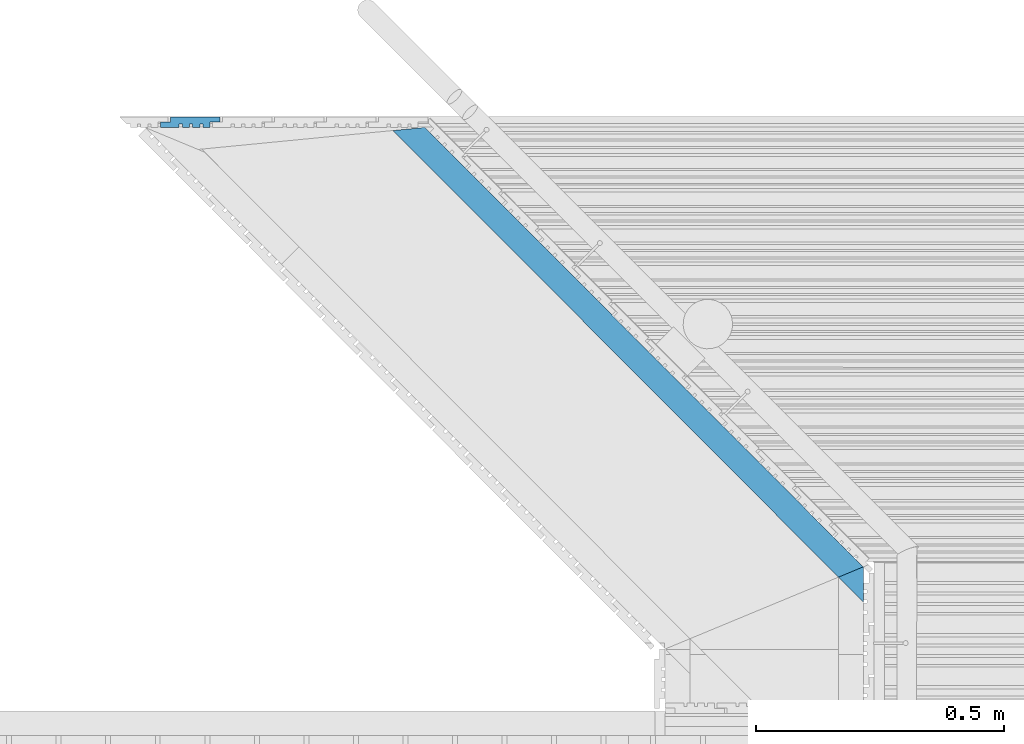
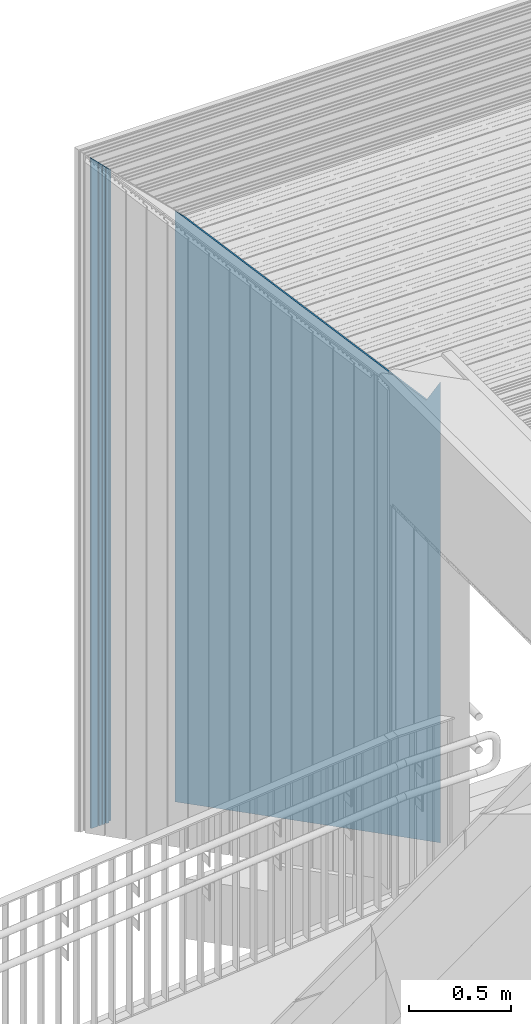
# One storey, part 140 of 418: 2 building element parts, 2 elements without a shape of their own.
"""IFC2X3 building model written with IfcOpenShell, lengths in millimetres."""

from ifc_helpers import new_model, entity, si_unit, converted_unit, derived_unit, money_unit, direction, frame, origin_with_axes, place, context, subcontext, project, spatial, polyline, outline, extrude, boolean, faceted_brep, material, type_object, element, aggregate, save


model = new_model("IFC2X3")

# Units and contexts
model_context = context("Model", 3, precision=0.01, world=origin_with_axes(), true_north=direction((0.0, 1.0)))
body_context = subcontext(model_context, "Body", "Model", "MODEL_VIEW")
ifc_project = project(units=[si_unit("LENGTHUNIT", "METRE", prefix="MILLI"), si_unit("AREAUNIT", "SQUARE_METRE"), si_unit("VOLUMEUNIT", "CUBIC_METRE"), converted_unit("PLANEANGLEUNIT", "DEGREE", entity("IfcPlaneAngleMeasure", 0.0174532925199), si_unit("PLANEANGLEUNIT", "RADIAN"), dimensions=[0, 0, 0, 0, 0, 0, 0]), si_unit("SOLIDANGLEUNIT", "STERADIAN"), money_unit("EUR"), converted_unit("TIMEUNIT", "Year", entity("IfcTimeMeasure", 31556926.0), si_unit("TIMEUNIT", "SECOND"), dimensions=[0, 0, 1, 0, 0, 0, 0]), si_unit("MASSUNIT", "GRAM", prefix="KILO"), si_unit("THERMODYNAMICTEMPERATUREUNIT", "DEGREE_CELSIUS"), si_unit("LUMINOUSINTENSITYUNIT", "LUMEN"), si_unit("ENERGYUNIT", "JOULE", prefix="MEGA"), derived_unit("THERMALCONDUCTANCEUNIT", [(si_unit("POWERUNIT", "WATT"), 1), (si_unit("LENGTHUNIT", "METRE"), -1), (si_unit("THERMODYNAMICTEMPERATUREUNIT", "KELVIN"), -1)]), derived_unit("SPECIFICHEATCAPACITYUNIT", [(si_unit("ENERGYUNIT", "JOULE"), 1), (si_unit("MASSUNIT", "GRAM", prefix="KILO"), -1), (si_unit("THERMODYNAMICTEMPERATUREUNIT", "KELVIN"), -1)]), derived_unit("MASSDENSITYUNIT", [(si_unit("MASSUNIT", "GRAM", prefix="KILO"), 1), (si_unit("VOLUMEUNIT", "CUBIC_METRE"), -1)])], contexts=[model_context])

# Site, building, storey
site_placement = place(None, origin_with_axes())
site = spatial("IfcSite", under=ifc_project, at=site_placement, Name="Paldiski mnt 245/1, Tallinn, Harjumaa", CompositionType="COMPLEX")
building_placement = place(site_placement, origin_with_axes())
building = spatial("IfcBuilding", under=site, at=building_placement, Name="RKAS Hoone üldnimetus (kasutust iseloomustav) -> IFC Project Manager -> SOLIBRI", CompositionType="ELEMENT")
storey_placement = place(building_placement, origin_with_axes())
storey = spatial("IfcBuildingStorey", under=building, at=storey_placement, Name="Esimene korrus", CompositionType="ELEMENT", Elevation=0.0)

# Proxy, building element part
building_element_proxy_type_1 = type_object("IfcBuildingElementProxyType", Name="Varikatuse_sein 400", PredefinedType="NOTDEFINED")
proxy_1_placement = place(storey_placement, frame((-53883.9743783, 39767.252735, 0.0), z_axis=(0.0, 0.0, 1.0), x_axis=(0.706191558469, -0.708020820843, 0.0)))
proxy_1 = element("IfcBuildingElementProxy", 1, at=proxy_1_placement, inside=storey, type_object=building_element_proxy_type_1, Name="Varikatus")
ifc_material_1 = material(Name="SKR-01_Õhkvahe - Raam")
building_element_part_1_placement = place(proxy_1_placement, origin_with_axes())
building_element_part_1 = element("IfcBuildingElementPart", 2, at=building_element_part_1_placement, material=ifc_material_1, Name="SKR-01_Õhkvahe - Raam", context=body_context, shape_type="CSG", body=[
    boolean("DIFFERENCE", boolean("DIFFERENCE", boolean("DIFFERENCE", boolean("DIFFERENCE", boolean("DIFFERENCE", boolean("DIFFERENCE", extrude(outline(polyline([(-398.966548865, -50.0), (1654.52755892, -50.0), (1654.52755892, 0.0), (-398.966548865, 0.0), (-398.966548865, -50.0)])), origin_with_axes(), (0.0, 0.0, 1.0), 4090.0), faceted_brep([(-287.303761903, -350.0, 3918.38339031), (-287.303761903, -350.0, 0.0), (-398.966548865, -350.0, 0.0), (-398.966548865, -350.0, 4090.0), (1654.52755892, -350.0, 4090.0), (1654.52755892, -350.0, 0.0), (1108.78180968, -349.999999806, 0.0), (1108.78180915, -349.999999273, 2930.77802674), (1108.64311927, -350.0, 2930.54096341), (-328.347156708, -400.0, 3982.8532107), (-328.347156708, -400.0, 0.0), (-398.966548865, -400.0, 0.0), (-398.966548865, -400.0, 4090.0), (1654.52755892, -400.0, 4090.0), (1654.52755892, -400.0, 0.0), (1158.9113259, -400.0, 0.0), (1158.9113259, -400.0, 2982.00000037), (1123.80377089, -364.983149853, 2982.00000037), (1088.87739132, -400.0, 2982.00000037), (1088.03072295, -400.0, 2980.55277872), (1085.98561484, -400.0, 2982.00000037), (1078.53869489, -392.562102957, 2982.00000037), (1071.1200146, -400.0, 2992.51964895), (1071.1200146, -400.0, 2982.00000037)], [[[0, 1, 2, 3, 4, 5, 6, 7, 8]], [[1, 0, 9, 10]], [[1, 10, 11, 2]], [[3, 2, 11, 12]], [[3, 12, 13, 4]], [[13, 14, 5, 4]], [[15, 6, 5, 14]], [[7, 6, 15, 16, 17]], [[8, 7, 17, 18, 19]], [[0, 8, 19, 20, 21, 22, 9]], [[16, 15, 14, 13, 12, 11, 10, 9, 22, 23, 20, 19, 18]], [[16, 18, 17]], [[20, 23, 21]], [[23, 22, 21]]])), faceted_brep([(1295.46685324, -346.063713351, 0.0), (1299.41333728, -350.000000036, 0.0), (1291.5407371, -349.999999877, 0.0), (1295.46685324, -346.063713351, 2280.0), (1299.41333721, -349.999999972, 2280.0), (1291.540737, -349.999999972, 2280.0)], [[[0, 1, 2]], [[1, 0, 3, 4]], [[5, 2, 1, 4]], [[0, 2, 5, 3]], [[5, 4, 3]]])), faceted_brep([(1309.7438273, -331.749758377, 0.0), (1317.53205682, -339.517864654, 0.0), (1331.65588833, -325.357449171, 0.0), (1338.73609607, -332.419364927, 0.0), (1321.20088299, -349.999999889, 0.0), (1301.427452, -349.999999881, 0.0), (1304.406392, -347.01334279, 0.0), (1299.45024677, -342.07000206, 0.0), (1309.7438273, -331.749758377, 2280.0), (1317.53205682, -339.517864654, 2280.0), (1331.65588833, -325.357449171, 2280.0), (1338.73609607, -332.419364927, 2280.0), (1321.2008829, -349.999999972, 2280.0), (1301.42745191, -349.999999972, 2280.0), (1304.406392, -347.01334279, 2280.0), (1299.45024677, -342.07000206, 2280.0)], [[[0, 1, 2, 3, 4, 5, 6, 7]], [[1, 0, 8, 9]], [[2, 1, 9, 10]], [[3, 2, 10, 11]], [[4, 3, 11, 12]], [[13, 5, 4, 12]], [[6, 5, 13, 14]], [[7, 6, 14, 15]], [[0, 7, 15, 8]], [[13, 12, 11, 10, 9, 8, 15, 14]]])), faceted_brep([(1383.89394094, -257.407572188, 0.0), (1391.68217046, -265.175678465, 0.0), (1405.80600197, -251.015262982, 0.0), (1412.88620971, -258.077178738, 0.0), (1342.2670542, -328.879260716, 0.0), (1334.83283462, -321.464248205, 0.0), (1320.70900327, -335.624665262, 0.0), (1313.27478542, -328.209654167, 0.0), (1339.77539592, -301.640397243, 0.0), (1344.73154273, -306.583737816, 0.0), (1349.22468465, -302.078957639, 0.0), (1344.26853942, -297.135616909, 0.0), (1354.81841795, -286.558410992, 0.0), (1359.77456318, -291.501751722, 0.0), (1364.10135663, -287.163749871, 0.0), (1359.1452114, -282.220409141, 0.0), (1369.61696688, -271.721527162, 0.0), (1374.57311368, -276.664867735, 0.0), (1378.55650564, -272.671156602, 0.0), (1373.60036041, -267.727815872, 0.0), (1383.89394094, -257.407572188, 2280.0), (1391.68217046, -265.175678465, 2280.0), (1405.80600197, -251.015262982, 2280.0), (1412.88620971, -258.077178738, 2280.0), (1342.2670542, -328.879260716, 2280.0), (1334.83283462, -321.464248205, 2280.0), (1320.70900327, -335.624665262, 2280.0), (1313.27478542, -328.209654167, 2280.0), (1339.77539592, -301.640397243, 2280.0), (1344.73154273, -306.583737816, 2280.0), (1349.22468465, -302.078957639, 2280.0), (1344.26853942, -297.135616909, 2280.0), (1354.81841795, -286.558410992, 2280.0), (1359.77456318, -291.501751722, 2280.0), (1364.10135663, -287.163749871, 2280.0), (1359.1452114, -282.220409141, 2280.0), (1369.61696688, -271.721527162, 2280.0), (1374.57311368, -276.664867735, 2280.0), (1378.55650564, -272.671156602, 2280.0), (1373.60036041, -267.727815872, 2280.0)], [[[0, 1, 2, 3, 4, 5, 6, 7, 8, 9, 10, 11, 12, 13, 14, 15, 16, 17, 18, 19]], [[1, 0, 20, 21]], [[2, 1, 21, 22]], [[3, 2, 22, 23]], [[4, 3, 23, 24]], [[5, 4, 24, 25]], [[6, 5, 25, 26]], [[7, 6, 26, 27]], [[8, 7, 27, 28]], [[9, 8, 28, 29]], [[10, 9, 29, 30]], [[11, 10, 30, 31]], [[12, 11, 31, 32]], [[13, 12, 32, 33]], [[14, 13, 33, 34]], [[15, 14, 34, 35]], [[16, 15, 35, 36]], [[17, 16, 36, 37]], [[18, 17, 37, 38]], [[19, 18, 38, 39]], [[0, 19, 39, 20]], [[21, 20, 39, 38, 37, 36, 35, 34, 33, 32, 31, 30, 29, 28, 27, 26, 25, 24, 23, 22]]])), faceted_brep([(-41.0433930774, -50.0, 3531.56446793), (-41.0433930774, -50.0, 0.0), (-398.966548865, -50.0, 0.0), (-398.966548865, -50.0, 4090.0), (1654.52755892, -50.0, 4090.0), (1654.52755892, -50.0, 0.0), (1232.81862778, -49.9999999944, 0.0), (1232.81862769, -49.9999999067, 2631.32666049), (1232.31749721, -50.0, 2630.47007154), (-287.303761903, -350.0, 3918.38339031), (-287.30376199, -350.000000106, 0.0), (-398.966548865, -350.0, 0.0), (-398.966548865, -350.0, 4090.0), (1654.52755892, -350.0, 4090.0), (1654.52755892, -350.0, 0.0), (1412.25513599, -228.972911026, 0.0), (1533.59572387, -349.999999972, 0.0), (1427.12357458, -243.802935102, 0.0), (1416.41716813, -254.537074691, 0.0), (1408.98294881, -247.12206187, 0.0), (1394.85911702, -261.282479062, 0.0), (1387.42489911, -253.867468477, 0.0), (1412.25513599, -228.972911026, 2280.0), (1427.12357458, -243.802935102, 2280.0), (1533.5957239, -350.0, 2982.00000037), (1335.66123843, -152.5769036, 2982.00000037), (1138.74821044, -349.999999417, 2982.00000037), (1108.78180915, -349.999999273, 2930.77802674), (1108.64311927, -350.0, 2930.54096341), (1416.41716813, -254.537074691, 2280.0), (1408.98294881, -247.12206187, 2280.0), (1394.85911702, -261.282479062, 2280.0), (1387.42489911, -253.867468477, 2280.0)], [[[0, 1, 2, 3, 4, 5, 6, 7, 8]], [[1, 0, 9, 10]], [[1, 10, 11, 2]], [[3, 2, 11, 12]], [[3, 12, 13, 4]], [[13, 14, 5, 4]], [[15, 6, 5, 14, 16, 17, 18, 19, 20, 21]], [[7, 6, 15, 22, 23, 17, 16, 24, 25]], [[8, 7, 25, 26, 27, 28]], [[0, 8, 28, 9]], [[24, 16, 14, 13, 12, 11, 10, 9, 28, 27, 26]], [[18, 17, 23, 29]], [[19, 18, 29, 30]], [[20, 19, 30, 31]], [[21, 20, 31, 32]], [[15, 21, 32, 22]], [[23, 22, 32, 31, 30, 29]], [[24, 26, 25]]])), faceted_brep([(9.75649072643e-06, 9.78177183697e-06, 3467.09463492), (9.75649072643e-06, 9.78177183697e-06, 0.0), (-398.966548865, 0.0, 0.0), (-398.966548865, 0.0, 4090.0), (1654.52755892, 0.0, 4090.0), (1654.52755892, 0.0, 0.0), (1253.49141913, 0.0, 0.0), (1253.49142302, -3.8734455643e-06, 2581.41809275), (1252.92989353, 0.0, 2580.45825622), (-41.0433930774, -50.0, 3531.56446793), (-41.0433936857, -50.000000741, 0.0), (-398.966548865, -50.0, 0.0), (-398.966548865, -50.0, 4090.0), (1654.52755892, -50.0, 4090.0), (1654.52755892, -50.0, 0.0), (1303.62093515, -50.0, 0.0), (1303.62093515, -50.0, 2752.34999852), (1232.81862769, -49.9999999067, 2631.32666049), (1232.31749721, -50.0, 2630.47007154)], [[[0, 1, 2, 3, 4, 5, 6, 7, 8]], [[1, 0, 9, 10]], [[1, 10, 11, 2]], [[3, 2, 11, 12]], [[3, 12, 13, 4]], [[13, 14, 5, 4]], [[15, 6, 5, 14]], [[7, 6, 15, 16]], [[8, 7, 16, 17, 18]], [[0, 8, 18, 9]], [[16, 15, 14, 13, 12, 11, 10, 9, 18, 17]]])),
])
aggregate(proxy_1, [building_element_part_1])

building_element_proxy_type_2 = type_object("IfcBuildingElementProxyType", Name="Laudis esiprofiil_01 21 x 622", PredefinedType="NOTDEFINED")
proxy_2_placement = place(storey_placement, frame((-54498.5561962, 39788.252735, 0.0), z_axis=(0.0, 0.0, 1.0), x_axis=(0.0, 1.0, 0.0)))
proxy_2 = element("IfcBuildingElementProxy", 3, at=proxy_2_placement, inside=storey, type_object=building_element_proxy_type_2, Name="Varikatus")
ifc_material_2 = material(Name="Laudis 5072 Honka 45 horisontaalne raastas")
building_element_part_2_placement = place(proxy_2_placement, origin_with_axes())
building_element_part_2 = element("IfcBuildingElementPart", 4, at=building_element_part_2_placement, material=ifc_material_2, Name="Laudis 5072 Honka 45 horisontaalne raastas", context=body_context, shape_type="CSG", body=[
    boolean("DIFFERENCE", boolean("DIFFERENCE", boolean("DIFFERENCE", boolean("DIFFERENCE", boolean("DIFFERENCE", boolean("DIFFERENCE", extrude(outline(polyline([(3.20348192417e-08, -100.971430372), (-10.5000010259, -100.971430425), (-10.5000005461, -80.9714298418), (-20.9999998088, -80.9714301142), (-21.0000010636, -118.497524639), (-14.0000005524, -118.497525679), (-14.0000003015, -124.860022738), (-20.99999981, -124.860022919), (-20.9999998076, -139.79914009), (-14.0000002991, -139.799139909), (-14.0000007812, -145.926080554), (-21.0000002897, -145.926080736), (-21.0000013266, -160.754573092), (-14.0000008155, -160.754574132), (-14.0000015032, -166.395242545), (-21.0000010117, -166.395242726), (-21.0000007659, -180.971429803), (-10.000001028, -180.971430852), (-10.0000002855, -200.971430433), (-7.63172636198e-07, -200.971430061), (3.20348192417e-08, -100.971430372)])), origin_with_axes(), (0.0, 0.0, 1.0), 4086.15997799), faceted_brep([(-10.0000002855, -515.971430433, 3569.02857075), (-7.63172636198e-07, -515.971430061, 3569.02857112), (-7.63172636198e-07, -515.971430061, 4086.15997799), (-10.0000002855, -515.971430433, 4086.15997799), (3.20312665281e-08, -415.971430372, 3669.02857081), (-10.000001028, -495.971430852, 3589.02857033), (-21.0000007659, -495.971429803, 3589.02857138), (-21.0000010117, -481.395242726, 3603.60475846), (-14.0000015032, -481.395242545, 3603.60475864), (-14.0000008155, -475.754574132, 3609.24542705), (-21.0000013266, -475.754573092, 3609.24542809), (-21.0000002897, -460.926080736, 3624.07392045), (-14.0000007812, -460.926080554, 3624.07392063), (-14.0000002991, -454.799139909, 3630.20086128), (-20.9999998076, -454.79914009, 3630.20086109), (-20.99999981, -439.860022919, 3645.13997827), (-14.0000003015, -439.860022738, 3645.13997845), (-14.0000005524, -433.497525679, 3651.50247551), (-21.0000010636, -433.497524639, 3651.50247655), (-20.9999998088, -395.971430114, 3689.02857107), (-10.5000005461, -395.971429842, 3689.02857134), (-10.5000010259, -415.971430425, 3669.02857076), (3.20312665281e-08, -415.971430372, 4086.15997799), (-10.5000010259, -415.971430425, 4086.15997799), (-10.5000005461, -395.971429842, 4086.15997799), (-20.9999998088, -395.971430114, 4086.15997799), (-21.0000010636, -433.497524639, 4086.15997799), (-14.0000005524, -433.497525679, 4086.15997799), (-14.0000003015, -439.860022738, 4086.15997799), (-20.99999981, -439.860022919, 4086.15997799), (-20.9999998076, -454.79914009, 4086.15997799), (-14.0000002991, -454.799139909, 4086.15997799), (-14.0000007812, -460.926080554, 4086.15997799), (-21.0000002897, -460.926080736, 4086.15997799), (-21.0000013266, -475.754573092, 4086.15997799), (-14.0000008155, -475.754574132, 4086.15997799), (-14.0000015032, -481.395242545, 4086.15997799), (-21.0000010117, -481.395242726, 4086.15997799), (-21.0000007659, -495.971429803, 4086.15997799), (-10.000001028, -495.971430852, 4086.15997799)], [[[0, 1, 2, 3]], [[4, 1, 0, 5, 6, 7, 8, 9, 10, 11, 12, 13, 14, 15, 16, 17, 18, 19, 20, 21]], [[1, 4, 22, 2]], [[2, 22, 23, 24, 25, 26, 27, 28, 29, 30, 31, 32, 33, 34, 35, 36, 37, 38, 39, 3]], [[5, 0, 3, 39]], [[6, 5, 39, 38]], [[7, 6, 38, 37]], [[8, 7, 37, 36]], [[9, 8, 36, 35]], [[10, 9, 35, 34]], [[11, 10, 34, 33]], [[12, 11, 33, 32]], [[13, 12, 32, 31]], [[14, 13, 31, 30]], [[15, 14, 30, 29]], [[16, 15, 29, 28]], [[17, 16, 28, 27]], [[18, 17, 27, 26]], [[19, 18, 26, 25]], [[20, 19, 25, 24]], [[21, 20, 24, 23]], [[4, 21, 23, 22]]])), faceted_brep([(-10.0000002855, -620.971430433, 3464.02857075), (-7.63172636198e-07, -620.971430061, 3464.02857112), (-7.63172636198e-07, -620.971430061, 4086.15997799), (-10.0000002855, -620.971430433, 4086.15997799), (3.20312665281e-08, -520.971430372, 3564.02857081), (-10.000001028, -600.971430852, 3484.02857033), (-21.0000007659, -600.971429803, 3484.02857138), (-21.0000010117, -586.395242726, 3498.60475846), (-14.0000015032, -586.395242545, 3498.60475864), (-14.0000008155, -580.754574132, 3504.24542705), (-21.0000013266, -580.754573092, 3504.24542809), (-21.0000002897, -565.926080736, 3519.07392045), (-14.0000007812, -565.926080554, 3519.07392063), (-14.0000002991, -559.799139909, 3525.20086128), (-20.9999998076, -559.79914009, 3525.20086109), (-20.99999981, -544.860022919, 3540.13997827), (-14.0000003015, -544.860022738, 3540.13997845), (-14.0000005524, -538.497525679, 3546.50247551), (-21.0000010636, -538.497524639, 3546.50247655), (-20.9999998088, -500.971430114, 3584.02857107), (-10.5000005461, -500.971429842, 3584.02857134), (-10.5000010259, -520.971430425, 3564.02857076), (3.20312665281e-08, -520.971430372, 4086.15997799), (-10.5000010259, -520.971430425, 4086.15997799), (-10.5000005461, -500.971429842, 4086.15997799), (-20.9999998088, -500.971430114, 4086.15997799), (-21.0000010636, -538.497524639, 4086.15997799), (-14.0000005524, -538.497525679, 4086.15997799), (-14.0000003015, -544.860022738, 4086.15997799), (-20.99999981, -544.860022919, 4086.15997799), (-20.9999998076, -559.79914009, 4086.15997799), (-14.0000002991, -559.799139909, 4086.15997799), (-14.0000007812, -565.926080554, 4086.15997799), (-21.0000002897, -565.926080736, 4086.15997799), (-21.0000013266, -580.754573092, 4086.15997799), (-14.0000008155, -580.754574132, 4086.15997799), (-14.0000015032, -586.395242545, 4086.15997799), (-21.0000010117, -586.395242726, 4086.15997799), (-21.0000007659, -600.971429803, 4086.15997799), (-10.000001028, -600.971430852, 4086.15997799)], [[[0, 1, 2, 3]], [[4, 1, 0, 5, 6, 7, 8, 9, 10, 11, 12, 13, 14, 15, 16, 17, 18, 19, 20, 21]], [[1, 4, 22, 2]], [[2, 22, 23, 24, 25, 26, 27, 28, 29, 30, 31, 32, 33, 34, 35, 36, 37, 38, 39, 3]], [[5, 0, 3, 39]], [[6, 5, 39, 38]], [[7, 6, 38, 37]], [[8, 7, 37, 36]], [[9, 8, 36, 35]], [[10, 9, 35, 34]], [[11, 10, 34, 33]], [[12, 11, 33, 32]], [[13, 12, 32, 31]], [[14, 13, 31, 30]], [[15, 14, 30, 29]], [[16, 15, 29, 28]], [[17, 16, 28, 27]], [[18, 17, 27, 26]], [[19, 18, 26, 25]], [[20, 19, 25, 24]], [[21, 20, 24, 23]], [[4, 21, 23, 22]]])), faceted_brep([(-10.0000002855, -305.971430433, 3779.02857075), (-7.63179741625e-07, -305.971430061, 3779.02857112), (-7.63179741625e-07, -305.971430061, 4086.15997799), (-10.0000002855, -305.971430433, 4086.15997799), (3.20312665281e-08, -205.971430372, 3879.02857081), (-10.000001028, -285.971430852, 3799.02857033), (-21.0000007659, -285.971429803, 3799.02857138), (-21.0000010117, -271.395242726, 3813.60475846), (-14.0000015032, -271.395242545, 3813.60475864), (-14.0000008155, -265.754574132, 3819.24542705), (-21.0000013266, -265.754573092, 3819.24542809), (-21.0000002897, -250.926080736, 3834.07392045), (-14.0000007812, -250.926080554, 3834.07392063), (-14.0000002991, -244.799139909, 3840.20086128), (-20.9999998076, -244.79914009, 3840.20086109), (-20.99999981, -229.860022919, 3855.13997827), (-14.0000003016, -229.860022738, 3855.13997845), (-14.0000005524, -223.497525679, 3861.50247551), (-21.0000010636, -223.497524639, 3861.50247655), (-20.9999998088, -185.971430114, 3899.02857107), (-10.5000005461, -185.971429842, 3899.02857134), (-10.5000010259, -205.971430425, 3879.02857076), (3.20312665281e-08, -205.971430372, 4086.15997799), (-10.5000010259, -205.971430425, 4086.15997799), (-10.5000005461, -185.971429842, 4086.15997799), (-20.9999998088, -185.971430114, 4086.15997799), (-21.0000010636, -223.497524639, 4086.15997799), (-14.0000005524, -223.497525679, 4086.15997799), (-14.0000003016, -229.860022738, 4086.15997799), (-20.99999981, -229.860022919, 4086.15997799), (-20.9999998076, -244.79914009, 4086.15997799), (-14.0000002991, -244.799139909, 4086.15997799), (-14.0000007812, -250.926080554, 4086.15997799), (-21.0000002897, -250.926080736, 4086.15997799), (-21.0000013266, -265.754573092, 4086.15997799), (-14.0000008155, -265.754574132, 4086.15997799), (-14.0000015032, -271.395242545, 4086.15997799), (-21.0000010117, -271.395242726, 4086.15997799), (-21.0000007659, -285.971429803, 4086.15997799), (-10.000001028, -285.971430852, 4086.15997799)], [[[0, 1, 2, 3]], [[4, 1, 0, 5, 6, 7, 8, 9, 10, 11, 12, 13, 14, 15, 16, 17, 18, 19, 20, 21]], [[1, 4, 22, 2]], [[2, 22, 23, 24, 25, 26, 27, 28, 29, 30, 31, 32, 33, 34, 35, 36, 37, 38, 39, 3]], [[5, 0, 3, 39]], [[6, 5, 39, 38]], [[7, 6, 38, 37]], [[8, 7, 37, 36]], [[9, 8, 36, 35]], [[10, 9, 35, 34]], [[11, 10, 34, 33]], [[12, 11, 33, 32]], [[13, 12, 32, 31]], [[14, 13, 31, 30]], [[15, 14, 30, 29]], [[16, 15, 29, 28]], [[17, 16, 28, 27]], [[18, 17, 27, 26]], [[19, 18, 26, 25]], [[20, 19, 25, 24]], [[21, 20, 24, 23]], [[4, 21, 23, 22]]])), faceted_brep([(-10.0000002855, -410.971430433, 3674.02857075), (-7.63172636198e-07, -410.971430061, 3674.02857112), (-7.63172636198e-07, -410.971430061, 4086.15997799), (-10.0000002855, -410.971430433, 4086.15997799), (3.20312665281e-08, -310.971430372, 3774.02857081), (-10.000001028, -390.971430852, 3694.02857033), (-21.0000007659, -390.971429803, 3694.02857138), (-21.0000010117, -376.395242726, 3708.60475846), (-14.0000015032, -376.395242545, 3708.60475864), (-14.0000008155, -370.754574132, 3714.24542705), (-21.0000013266, -370.754573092, 3714.24542809), (-21.0000002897, -355.926080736, 3729.07392045), (-14.0000007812, -355.926080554, 3729.07392063), (-14.0000002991, -349.799139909, 3735.20086128), (-20.9999998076, -349.79914009, 3735.20086109), (-20.99999981, -334.860022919, 3750.13997827), (-14.0000003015, -334.860022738, 3750.13997845), (-14.0000005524, -328.497525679, 3756.50247551), (-21.0000010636, -328.497524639, 3756.50247655), (-20.9999998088, -290.971430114, 3794.02857107), (-10.5000005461, -290.971429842, 3794.02857134), (-10.5000010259, -310.971430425, 3774.02857076), (3.20312665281e-08, -310.971430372, 4086.15997799), (-10.5000010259, -310.971430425, 4086.15997799), (-10.5000005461, -290.971429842, 4086.15997799), (-20.9999998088, -290.971430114, 4086.15997799), (-21.0000010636, -328.497524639, 4086.15997799), (-14.0000005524, -328.497525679, 4086.15997799), (-14.0000003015, -334.860022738, 4086.15997799), (-20.99999981, -334.860022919, 4086.15997799), (-20.9999998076, -349.79914009, 4086.15997799), (-14.0000002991, -349.799139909, 4086.15997799), (-14.0000007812, -355.926080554, 4086.15997799), (-21.0000002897, -355.926080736, 4086.15997799), (-21.0000013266, -370.754573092, 4086.15997799), (-14.0000008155, -370.754574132, 4086.15997799), (-14.0000015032, -376.395242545, 4086.15997799), (-21.0000010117, -376.395242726, 4086.15997799), (-21.0000007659, -390.971429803, 4086.15997799), (-10.000001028, -390.971430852, 4086.15997799)], [[[0, 1, 2, 3]], [[4, 1, 0, 5, 6, 7, 8, 9, 10, 11, 12, 13, 14, 15, 16, 17, 18, 19, 20, 21]], [[1, 4, 22, 2]], [[2, 22, 23, 24, 25, 26, 27, 28, 29, 30, 31, 32, 33, 34, 35, 36, 37, 38, 39, 3]], [[5, 0, 3, 39]], [[6, 5, 39, 38]], [[7, 6, 38, 37]], [[8, 7, 37, 36]], [[9, 8, 36, 35]], [[10, 9, 35, 34]], [[11, 10, 34, 33]], [[12, 11, 33, 32]], [[13, 12, 32, 31]], [[14, 13, 31, 30]], [[15, 14, 30, 29]], [[16, 15, 29, 28]], [[17, 16, 28, 27]], [[18, 17, 27, 26]], [[19, 18, 26, 25]], [[20, 19, 25, 24]], [[21, 20, 24, 23]], [[4, 21, 23, 22]]])), faceted_brep([(-10.0000000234, -95.9714304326, 3989.02857075), (-1.4387921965e-06, -95.9714304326, 3989.02857075), (-1.4387921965e-06, -95.9714304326, 4086.15997799), (-10.0000000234, -95.9714304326, 4086.15997799), (8.28492829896e-09, 1.13997680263, 4086.13997799), (-10.0000014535, -75.9714304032, 4009.02857078), (-21.0000013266, -75.9714304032, 4009.02857078), (-21.0000013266, -61.3952431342, 4023.60475805), (-14.0000008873, -61.3952431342, 4023.60475805), (-14.0000008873, -55.7545748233, 4029.24542636), (-21.0000013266, -55.7545733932, 4029.24542779), (-20.9999998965, -40.9260801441, 4044.07392104), (-14.0000008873, -40.9260801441, 4044.07392104), (-14.0000008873, -34.7991393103, 4050.20086187), (-20.9999998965, -34.7991407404, 4050.20086044), (-20.9999998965, -19.8600231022, 4065.13997808), (-14.0000008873, -19.8600231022, 4065.13997808), (-14.0000008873, -12.860024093, 4072.13997709), (8.28492829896e-09, 1.13997680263, 4086.15997799), (-20.9999998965, -40.9260801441, 4086.15997799), (-21.0000013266, -55.7545733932, 4086.15997799), (-14.0000008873, -55.7545748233, 4086.15997799), (-14.0000008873, -61.3952431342, 4086.15997799), (-21.0000013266, -61.3952431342, 4086.15997799), (-21.0000013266, -75.9714304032, 4086.15997799), (-10.0000014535, -75.9714304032, 4086.15997799), (-14.0000008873, -12.860024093, 4086.15997799), (-14.0000008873, -19.8600231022, 4086.15997799), (-20.9999998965, -19.8600231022, 4086.15997799), (-20.9999998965, -34.7991407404, 4086.15997799), (-14.0000008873, -34.7991393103, 4086.15997799), (-14.0000008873, -40.9260801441, 4086.15997799)], [[[0, 1, 2, 3]], [[4, 1, 0, 5, 6, 7, 8, 9, 10, 11, 12, 13, 14, 15, 16, 17]], [[1, 4, 18, 2]], [[19, 20, 21, 22, 23, 24, 25, 3, 2, 18, 26, 27, 28, 29, 30, 31]], [[5, 0, 3, 25]], [[6, 5, 25, 24]], [[7, 6, 24, 23]], [[8, 7, 23, 22]], [[9, 8, 22, 21]], [[10, 9, 21, 20]], [[11, 10, 20, 19]], [[12, 11, 19, 31]], [[13, 12, 31, 30]], [[14, 13, 30, 29]], [[15, 14, 29, 28]], [[16, 15, 28, 27]], [[17, 16, 27, 26]], [[4, 17, 26, 18]]])), faceted_brep([(-10.0000002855, -200.971430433, 3884.02857075), (-7.63179741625e-07, -200.971430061, 3884.02857112), (-7.63179741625e-07, -200.971430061, 4086.15997799), (-10.0000002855, -200.971430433, 4086.15997799), (3.20312665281e-08, -100.971430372, 3984.02857081), (-10.000001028, -180.971430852, 3904.02857033), (-21.0000007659, -180.971429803, 3904.02857138), (-21.0000010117, -166.395242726, 3918.60475846), (-14.0000015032, -166.395242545, 3918.60475864), (-14.0000008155, -160.754574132, 3924.24542705), (-21.0000013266, -160.754573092, 3924.24542809), (-21.0000002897, -145.926080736, 3939.07392045), (-14.0000007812, -145.926080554, 3939.07392063), (-14.0000002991, -139.799139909, 3945.20086128), (-20.9999998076, -139.79914009, 3945.20086109), (-20.99999981, -124.860022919, 3960.13997827), (-14.0000003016, -124.860022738, 3960.13997845), (-14.0000005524, -118.497525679, 3966.50247551), (-21.0000010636, -118.497524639, 3966.50247655), (-20.9999998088, -80.9714301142, 4004.02857107), (-10.5000005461, -80.9714298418, 4004.02857134), (-10.5000010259, -100.971430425, 3984.02857076), (3.20312665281e-08, -100.971430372, 4086.15997799), (-10.5000010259, -100.971430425, 4086.15997799), (-10.5000005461, -80.9714298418, 4086.15997799), (-20.9999998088, -80.9714301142, 4086.15997799), (-21.0000010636, -118.497524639, 4086.15997799), (-14.0000005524, -118.497525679, 4086.15997799), (-14.0000003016, -124.860022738, 4086.15997799), (-20.99999981, -124.860022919, 4086.15997799), (-20.9999998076, -139.79914009, 4086.15997799), (-14.0000002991, -139.799139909, 4086.15997799), (-14.0000007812, -145.926080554, 4086.15997799), (-21.0000002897, -145.926080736, 4086.15997799), (-21.0000013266, -160.754573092, 4086.15997799), (-14.0000008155, -160.754574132, 4086.15997799), (-14.0000015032, -166.395242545, 4086.15997799), (-21.0000010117, -166.395242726, 4086.15997799), (-21.0000007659, -180.971429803, 4086.15997799), (-10.000001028, -180.971430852, 4086.15997799)], [[[0, 1, 2, 3]], [[4, 1, 0, 5, 6, 7, 8, 9, 10, 11, 12, 13, 14, 15, 16, 17, 18, 19, 20, 21]], [[1, 4, 22, 2]], [[2, 22, 23, 24, 25, 26, 27, 28, 29, 30, 31, 32, 33, 34, 35, 36, 37, 38, 39, 3]], [[5, 0, 3, 39]], [[6, 5, 39, 38]], [[7, 6, 38, 37]], [[8, 7, 37, 36]], [[9, 8, 36, 35]], [[10, 9, 35, 34]], [[11, 10, 34, 33]], [[12, 11, 33, 32]], [[13, 12, 32, 31]], [[14, 13, 31, 30]], [[15, 14, 30, 29]], [[16, 15, 29, 28]], [[17, 16, 28, 27]], [[18, 17, 27, 26]], [[19, 18, 26, 25]], [[20, 19, 25, 24]], [[21, 20, 24, 23]], [[4, 21, 23, 22]]])),
])
aggregate(proxy_2, [building_element_part_2])

save(model, "model.ifc")
